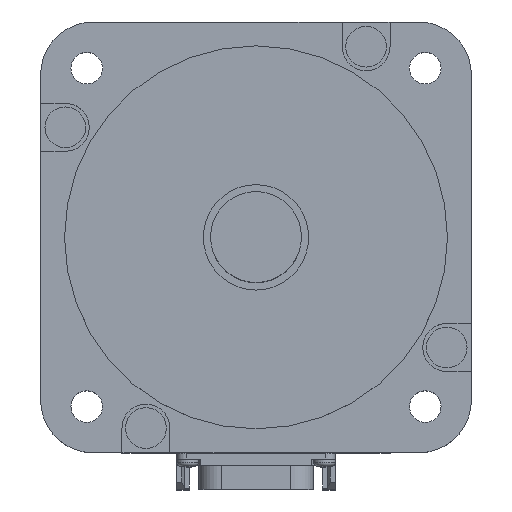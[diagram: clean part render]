
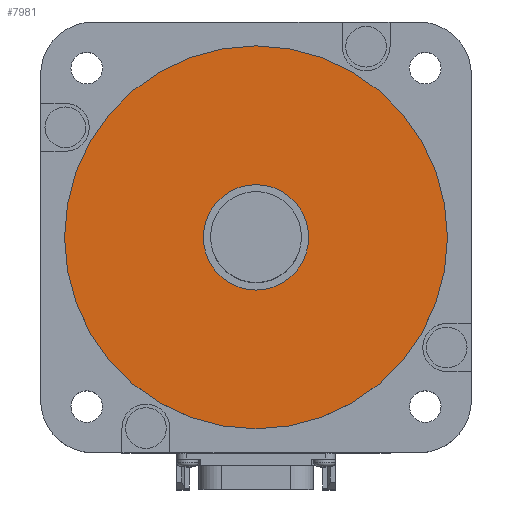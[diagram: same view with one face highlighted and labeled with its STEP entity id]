
A CAD part, top view. The second image highlights one B-rep face of the part: STEP entity #7981.
In plain terms, the highlighted planar face has unit normal (0, 0, 1).
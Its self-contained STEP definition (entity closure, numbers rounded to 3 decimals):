
#1723=CARTESIAN_POINT('',(0.,0.,3.));
#1724=DIRECTION('',(0.,0.,-1.));
#1725=DIRECTION('',(1.,0.,0.));
#1726=AXIS2_PLACEMENT_3D('',#1723,#1724,#1725);
#1728=CARTESIAN_POINT('',(0.,0.,3.));
#1729=DIRECTION('',(0.,0.,-1.));
#1730=DIRECTION('',(-1.,0.,0.));
#1731=AXIS2_PLACEMENT_3D('',#1728,#1729,#1730);
#1733=CARTESIAN_POINT('',(0.,0.,3.));
#1734=DIRECTION('',(0.,0.,1.));
#1735=DIRECTION('',(1.,0.,0.));
#1736=AXIS2_PLACEMENT_3D('',#1733,#1734,#1735);
#1738=CARTESIAN_POINT('',(0.,0.,3.));
#1739=DIRECTION('',(0.,0.,1.));
#1740=DIRECTION('',(-1.,0.,0.));
#1741=AXIS2_PLACEMENT_3D('',#1738,#1739,#1740);
#4524=CARTESIAN_POINT('',(40.,0.,3.));
#4525=VERTEX_POINT('',#4524);
#4526=CARTESIAN_POINT('',(-40.,0.,3.));
#4527=VERTEX_POINT('',#4526);
#5588=CARTESIAN_POINT('',(11.,0.,3.));
#5589=CARTESIAN_POINT('',(-11.,0.,3.));
#5590=VERTEX_POINT('',#5588);
#5591=VERTEX_POINT('',#5589);
#7965=CARTESIAN_POINT('',(0.,0.,3.));
#7966=DIRECTION('',(0.,0.,1.));
#7967=DIRECTION('',(1.,0.,0.));
#7968=AXIS2_PLACEMENT_3D('',#7965,#7966,#7967);
#7969=PLANE('',#7968);
#7970=ORIENTED_EDGE('',*,*,#7955,.T.);
#7972=ORIENTED_EDGE('',*,*,#7971,.T.);
#7973=EDGE_LOOP('',(#7970,#7972));
#7974=FACE_OUTER_BOUND('',#7973,.F.);
#7976=ORIENTED_EDGE('',*,*,#7975,.T.);
#7978=ORIENTED_EDGE('',*,*,#7977,.T.);
#7979=EDGE_LOOP('',(#7976,#7978));
#7980=FACE_BOUND('',#7979,.F.);
#7981=ADVANCED_FACE('',(#7974,#7980),#7969,.T.);
#1727=CIRCLE('',#1726,40.);
#1732=CIRCLE('',#1731,40.);
#1737=CIRCLE('',#1736,11.);
#1742=CIRCLE('',#1741,11.);
#7955=EDGE_CURVE('',#4525,#4527,#1727,.T.);
#7971=EDGE_CURVE('',#4527,#4525,#1732,.T.);
#7975=EDGE_CURVE('',#5590,#5591,#1737,.T.);
#7977=EDGE_CURVE('',#5591,#5590,#1742,.T.);
